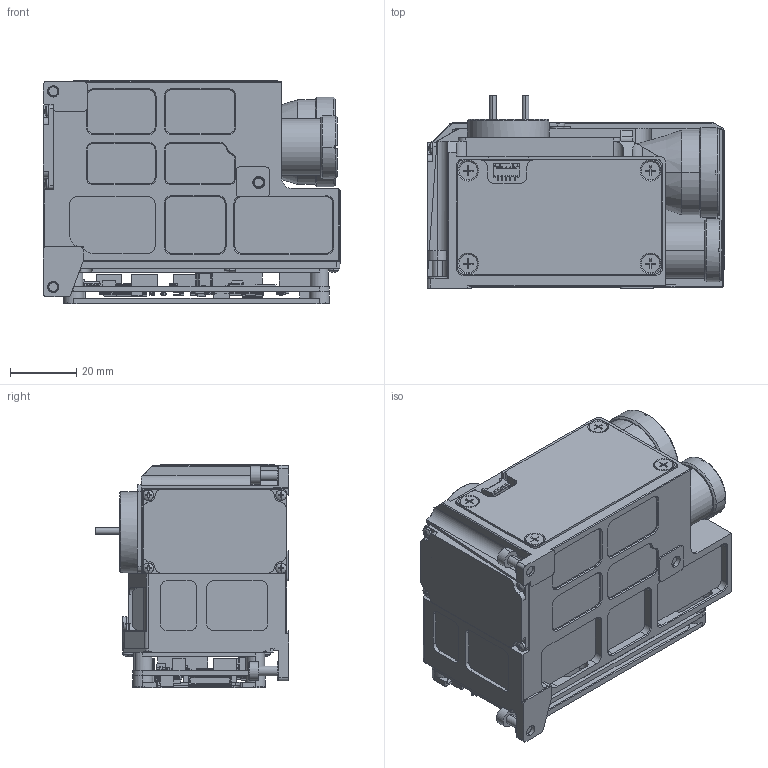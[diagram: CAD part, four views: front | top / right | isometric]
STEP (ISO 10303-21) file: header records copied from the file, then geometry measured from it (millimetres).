
FILE_DESCRIPTION((''),'2;1');
FILE_NAME('LS-604C_00_SW0005','2023-10-10T12:11:58',('Administrator'),(''),'CREO PARAMETRIC BY PTC INC, 2020053','CREO PARAMETRIC BY PTC INC, 2020053','');
FILE_SCHEMA(('CONFIG_CONTROL_DESIGN','SHAPE_APPEARANCE_LAYERS_GROUPS'));
Products named in the file (1): LS-604C_00_SW0005
Bounding box: 89.68 x 58.3 x 67.5 mm (x, y, z)
Volume: 215519.8 mm3; surface area: 53932.3 mm2
Topology: 42 solids, 42 shells, 9061 faces, 23956 edges, 15247 vertices
Faces by surface type: plane 4975, extrusion 1843, cylinder 1758, sphere 252, cone 162, torus 66, bspline 5
Entity records: 414758 total; most frequent: CARTESIAN_POINT 133918, ORIENTED_EDGE 47468, DIRECTION 38788, EDGE_CURVE 23734, VECTOR 17722, LINE 15879, VERTEX_POINT 15247, AXIS2_PLACEMENT_3D 10533
